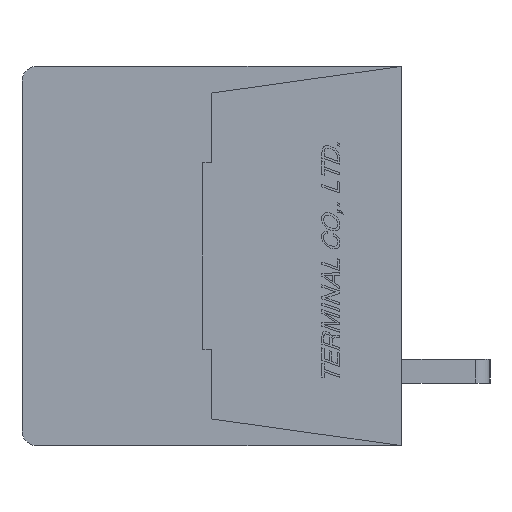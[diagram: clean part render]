
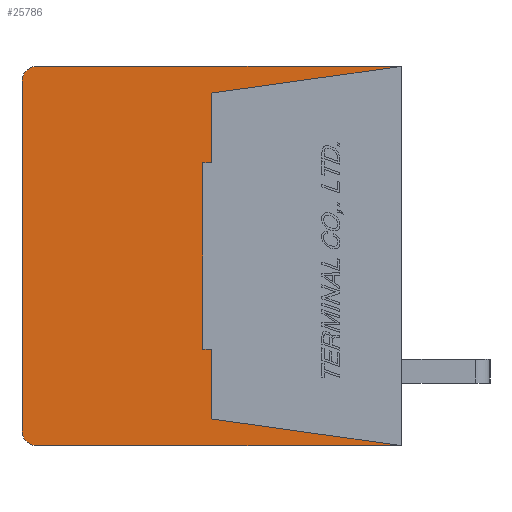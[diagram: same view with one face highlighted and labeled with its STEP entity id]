
A CAD part, left-side view. The second image highlights one B-rep face of the part: STEP entity #25786.
In plain terms, the highlighted planar face has unit normal (-1, 0, 0).
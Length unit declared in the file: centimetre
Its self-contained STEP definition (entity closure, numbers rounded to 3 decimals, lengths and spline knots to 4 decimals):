
#1338=CIRCLE('',#44087,0.05);
#1339=CIRCLE('',#44090,0.05);
#2332=VERTEX_POINT('',#35971);
#2333=VERTEX_POINT('',#35973);
#2334=VERTEX_POINT('',#35977);
#2335=VERTEX_POINT('',#35981);
#2336=VERTEX_POINT('',#35985);
#2337=VERTEX_POINT('',#35989);
#2338=VERTEX_POINT('',#35993);
#2339=VERTEX_POINT('',#35995);
#2340=VERTEX_POINT('',#35997);
#2341=VERTEX_POINT('',#35999);
#2342=VERTEX_POINT('',#36001);
#2343=VERTEX_POINT('',#36003);
#5072=VECTOR('',#29860,1.);
#5076=VECTOR('',#29869,1.);
#5079=VECTOR('',#29877,1.);
#5080=VECTOR('',#29879,1.);
#5081=VECTOR('',#29880,1.);
#5082=VECTOR('',#29881,1.);
#5083=VECTOR('',#29882,1.);
#5084=VECTOR('',#29883,1.);
#5085=VECTOR('',#29884,1.);
#5086=VECTOR('',#29885,1.);
#8110=LINE('',#35972,#5072);
#8114=LINE('',#35982,#5076);
#8117=LINE('',#35990,#5079);
#8118=LINE('',#35992,#5080);
#8119=LINE('',#35994,#5081);
#8120=LINE('',#35996,#5082);
#8121=LINE('',#35998,#5083);
#8122=LINE('',#36000,#5084);
#8123=LINE('',#36002,#5085);
#8124=LINE('',#36004,#5086);
#11492=EDGE_CURVE('',#2333,#2332,#8110,.T.);
#11495=EDGE_CURVE('',#2334,#2332,#1338,.T.);
#11497=EDGE_CURVE('',#2334,#2335,#8114,.T.);
#11499=EDGE_CURVE('',#2336,#2335,#1339,.T.);
#11501=EDGE_CURVE('',#2336,#2337,#8117,.T.);
#11502=EDGE_CURVE('',#2338,#2333,#8118,.T.);
#11503=EDGE_CURVE('',#2337,#2339,#8119,.T.);
#11504=EDGE_CURVE('',#2339,#2340,#8120,.T.);
#11505=EDGE_CURVE('',#2340,#2341,#8121,.T.);
#11506=EDGE_CURVE('',#2341,#2342,#8122,.T.);
#11507=EDGE_CURVE('',#2342,#2343,#8123,.T.);
#11508=EDGE_CURVE('',#2343,#2338,#8124,.T.);
#16763=ORIENTED_EDGE('',*,*,#11502,.T.);
#16764=ORIENTED_EDGE('',*,*,#11492,.T.);
#16765=ORIENTED_EDGE('',*,*,#11495,.F.);
#16766=ORIENTED_EDGE('',*,*,#11497,.T.);
#16767=ORIENTED_EDGE('',*,*,#11499,.F.);
#16768=ORIENTED_EDGE('',*,*,#11501,.T.);
#16769=ORIENTED_EDGE('',*,*,#11503,.T.);
#16770=ORIENTED_EDGE('',*,*,#11504,.T.);
#16771=ORIENTED_EDGE('',*,*,#11505,.T.);
#16772=ORIENTED_EDGE('',*,*,#11506,.T.);
#16773=ORIENTED_EDGE('',*,*,#11507,.T.);
#16774=ORIENTED_EDGE('',*,*,#11508,.T.);
#22464=EDGE_LOOP('',(#16763,#16764,#16765,#16766,#16767,#16768,#16769,#16770,
#16771,#16772,#16773,#16774));
#24162=FACE_BOUND('',#22464,.T.);
#25786=ADVANCED_FACE('',(#24162),#27182,.F.);
#27182=PLANE('',#44092);
#29860=DIRECTION('',(0.,1.,0.));
#29865=DIRECTION('',(1.,0.,0.));
#29866=DIRECTION('',(0.,0.,-0.05));
#29869=DIRECTION('',(0.,0.,-1.));
#29873=DIRECTION('',(1.,0.,0.));
#29874=DIRECTION('',(0.,0.,-0.05));
#29877=DIRECTION('',(0.,-1.,0.));
#29878=DIRECTION('',(1.,0.,0.));
#29879=DIRECTION('',(0.,-0.99,0.139));
#29880=DIRECTION('',(0.,0.99,0.139));
#29881=DIRECTION('',(0.,0.,1.));
#29882=DIRECTION('',(0.,1.,0.));
#29883=DIRECTION('',(0.,0.,1.));
#29884=DIRECTION('',(0.,-1.,0.));
#29885=DIRECTION('',(0.,0.,1.));
#35971=CARTESIAN_POINT('',(-1.,1.23,0.64));
#35972=CARTESIAN_POINT('',(-1.,0.,0.64));
#35973=CARTESIAN_POINT('',(-1.,0.,0.64));
#35977=CARTESIAN_POINT('',(-1.,1.28,0.59));
#35978=CARTESIAN_POINT('',(-1.,1.23,0.59));
#35981=CARTESIAN_POINT('',(-1.,1.28,-0.59));
#35982=CARTESIAN_POINT('',(-1.,1.28,0.59));
#35985=CARTESIAN_POINT('',(-1.,1.23,-0.64));
#35986=CARTESIAN_POINT('',(-1.,1.23,-0.59));
#35989=CARTESIAN_POINT('',(-1.,0.,-0.64));
#35990=CARTESIAN_POINT('',(-1.,1.23,-0.64));
#35991=CARTESIAN_POINT('',(-1.,0.6345,0.));
#35992=CARTESIAN_POINT('',(-1.,0.64,0.55));
#35993=CARTESIAN_POINT('',(-1.,0.64,0.55));
#35994=CARTESIAN_POINT('',(-1.,0.,-0.64));
#35995=CARTESIAN_POINT('',(-1.,0.64,-0.55));
#35996=CARTESIAN_POINT('',(-1.,0.64,-0.55));
#35997=CARTESIAN_POINT('',(-1.,0.64,-0.315));
#35998=CARTESIAN_POINT('',(-1.,0.64,-0.315));
#35999=CARTESIAN_POINT('',(-1.,0.67,-0.315));
#36000=CARTESIAN_POINT('',(-1.,0.67,-0.315));
#36001=CARTESIAN_POINT('',(-1.,0.67,0.315));
#36002=CARTESIAN_POINT('',(-1.,0.67,0.315));
#36003=CARTESIAN_POINT('',(-1.,0.64,0.315));
#36004=CARTESIAN_POINT('',(-1.,0.64,0.315));
#44087=AXIS2_PLACEMENT_3D('',#35978,#29865,#29866);
#44090=AXIS2_PLACEMENT_3D('',#35986,#29873,#29874);
#44092=AXIS2_PLACEMENT_3D('',#35991,#29878,$);
